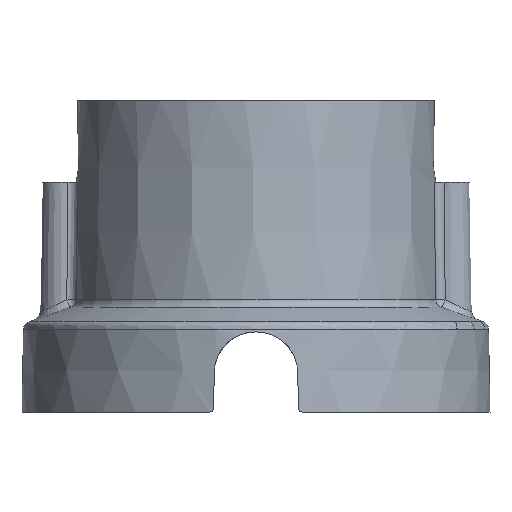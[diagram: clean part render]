
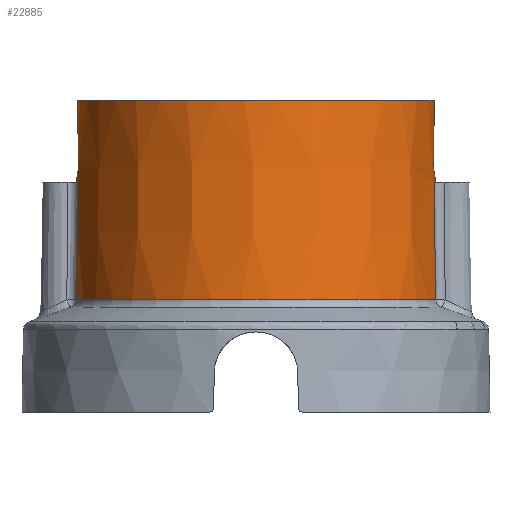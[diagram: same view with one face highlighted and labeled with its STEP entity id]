
A CAD part, left-side view. The second image highlights one B-rep face of the part: STEP entity #22885.
In plain terms, the highlighted conical face has half-angle 1 degrees and reference radius 44.373 mm.
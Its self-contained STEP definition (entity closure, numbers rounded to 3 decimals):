
#1629=CIRCLE('',#24453,44.349);
#1864=CIRCLE('',#24768,43.849);
#1865=CIRCLE('',#24769,43.849);
#1866=CIRCLE('',#24770,44.349);
#1867=CIRCLE('',#24771,43.503);
#3784=ORIENTED_EDGE('',*,*,#11426,.T.);
#3785=ORIENTED_EDGE('',*,*,#11427,.T.);
#3786=ORIENTED_EDGE('',*,*,#10838,.T.);
#3787=ORIENTED_EDGE('',*,*,#11428,.T.);
#3788=ORIENTED_EDGE('',*,*,#11429,.F.);
#3789=ORIENTED_EDGE('',*,*,#11430,.T.);
#3790=ORIENTED_EDGE('',*,*,#11431,.T.);
#3791=ORIENTED_EDGE('',*,*,#11432,.T.);
#3792=ORIENTED_EDGE('',*,*,#11433,.T.);
#10838=EDGE_CURVE('',#14700,#14701,#1629,.F.);
#11426=EDGE_CURVE('',#15203,#15204,#1864,.F.);
#11427=EDGE_CURVE('',#15204,#14700,#17299,.T.);
#11428=EDGE_CURVE('',#14701,#15205,#17300,.T.);
#11429=EDGE_CURVE('',#15206,#15205,#1865,.F.);
#11430=EDGE_CURVE('',#15206,#15207,#17301,.T.);
#11431=EDGE_CURVE('',#15207,#15208,#1866,.F.);
#11432=EDGE_CURVE('',#15208,#15203,#17302,.T.);
#11433=EDGE_CURVE('',#15209,#15209,#1867,.F.);
#14700=VERTEX_POINT('',#30820);
#14701=VERTEX_POINT('',#30821);
#15203=VERTEX_POINT('',#33387);
#15204=VERTEX_POINT('',#33388);
#15205=VERTEX_POINT('',#33397);
#15206=VERTEX_POINT('',#33399);
#15207=VERTEX_POINT('',#33404);
#15208=VERTEX_POINT('',#33406);
#15209=VERTEX_POINT('',#33412);
#17299=B_SPLINE_CURVE_WITH_KNOTS('',3,(#33389,#33390,#33391,#33392),
 .UNSPECIFIED.,.F.,.F.,(4,4),(0.,0.029),.UNSPECIFIED.);
#17300=B_SPLINE_CURVE_WITH_KNOTS('',3,(#33393,#33394,#33395,#33396),
 .UNSPECIFIED.,.F.,.F.,(4,4),(0.,0.029),.UNSPECIFIED.);
#17301=B_SPLINE_CURVE_WITH_KNOTS('',3,(#33400,#33401,#33402,#33403),
 .UNSPECIFIED.,.F.,.F.,(4,4),(0.,0.029),.UNSPECIFIED.);
#17302=B_SPLINE_CURVE_WITH_KNOTS('',3,(#33407,#33408,#33409,#33410),
 .UNSPECIFIED.,.F.,.F.,(4,4),(0.,0.029),.UNSPECIFIED.);
#19388=EDGE_LOOP('',(#3784,#3785,#3786,#3787,#3788,#3789,#3790,#3791));
#19389=EDGE_LOOP('',(#3792));
#21057=FACE_BOUND('',#19388,.T.);
#21058=FACE_BOUND('',#19389,.T.);
#22620=CONICAL_SURFACE('',#24767,44.373,0.017);
#22885=ADVANCED_FACE('',(#21057,#21058),#22620,.T.);
#24453=AXIS2_PLACEMENT_3D('',#30819,#26440,#26441);
#24767=AXIS2_PLACEMENT_3D('',#33385,#27072,#27073);
#24768=AXIS2_PLACEMENT_3D('',#33386,#27074,#27075);
#24769=AXIS2_PLACEMENT_3D('',#33398,#27076,#27077);
#24770=AXIS2_PLACEMENT_3D('',#33405,#27078,#27079);
#24771=AXIS2_PLACEMENT_3D('',#33411,#27080,#27081);
#26440=DIRECTION('',(0.,0.,-1.));
#26441=DIRECTION('',(-1.,0.,0.));
#27072=DIRECTION('',(0.,0.,-1.));
#27073=DIRECTION('',(-1.,0.,0.));
#27074=DIRECTION('',(0.,0.,-1.));
#27075=DIRECTION('',(-1.,0.,0.));
#27076=DIRECTION('',(0.,0.,1.));
#27077=DIRECTION('',(1.,0.,0.));
#27078=DIRECTION('',(0.,0.,-1.));
#27079=DIRECTION('',(-1.,0.,0.));
#27080=DIRECTION('',(0.,0.,1.));
#27081=DIRECTION('',(1.,0.,0.));
#30819=CARTESIAN_POINT('',(0.,0.,27.37));
#30820=CARTESIAN_POINT('',(7.076,-43.781,27.37));
#30821=CARTESIAN_POINT('',(7.076,43.781,27.37));
#33385=CARTESIAN_POINT('',(0.,0.,26.));
#33386=CARTESIAN_POINT('',(0.,0.,56.));
#33387=CARTESIAN_POINT('',(-6.504,-43.364,56.));
#33388=CARTESIAN_POINT('',(6.504,-43.364,56.));
#33389=CARTESIAN_POINT('',(6.504,-43.364,56.));
#33390=CARTESIAN_POINT('',(6.701,-43.503,46.457));
#33391=CARTESIAN_POINT('',(6.891,-43.642,36.913));
#33392=CARTESIAN_POINT('',(7.076,-43.781,27.37));
#33393=CARTESIAN_POINT('',(7.076,43.781,27.37));
#33394=CARTESIAN_POINT('',(6.891,43.642,36.913));
#33395=CARTESIAN_POINT('',(6.701,43.503,46.457));
#33396=CARTESIAN_POINT('',(6.504,43.364,56.));
#33397=CARTESIAN_POINT('',(6.504,43.364,56.));
#33398=CARTESIAN_POINT('',(0.,0.,56.));
#33399=CARTESIAN_POINT('',(-6.504,43.364,56.));
#33400=CARTESIAN_POINT('',(-6.504,43.364,56.));
#33401=CARTESIAN_POINT('',(-6.701,43.503,46.457));
#33402=CARTESIAN_POINT('',(-6.891,43.642,36.913));
#33403=CARTESIAN_POINT('',(-7.076,43.781,27.37));
#33404=CARTESIAN_POINT('',(-7.076,43.781,27.37));
#33405=CARTESIAN_POINT('',(0.,0.,27.37));
#33406=CARTESIAN_POINT('',(-7.076,-43.781,27.37));
#33407=CARTESIAN_POINT('',(-7.076,-43.781,27.37));
#33408=CARTESIAN_POINT('',(-6.891,-43.642,36.913));
#33409=CARTESIAN_POINT('',(-6.701,-43.503,46.457));
#33410=CARTESIAN_POINT('',(-6.504,-43.364,56.));
#33411=CARTESIAN_POINT('',(0.,0.,75.803));
#33412=CARTESIAN_POINT('',(43.503,0.,75.803));
